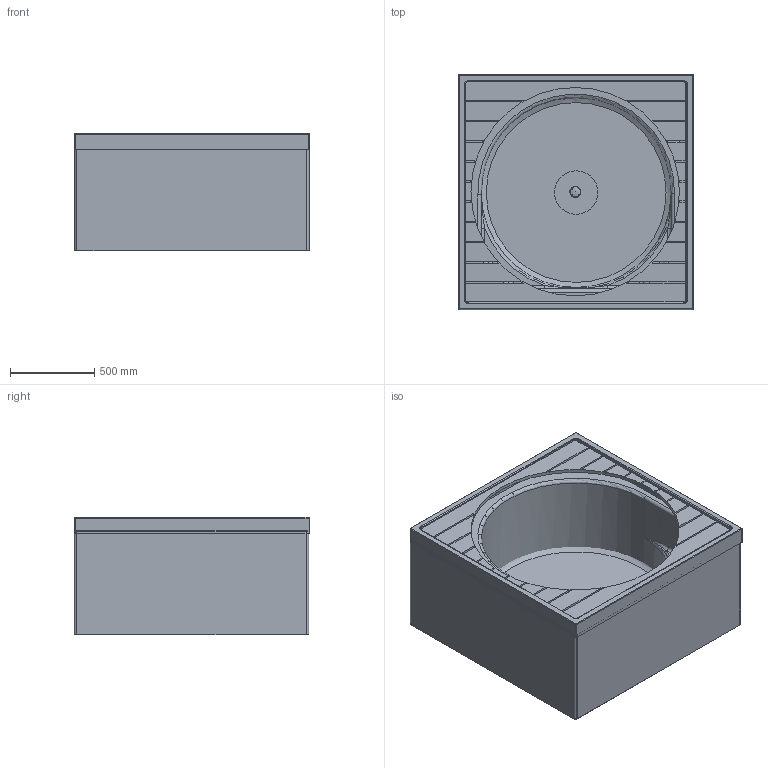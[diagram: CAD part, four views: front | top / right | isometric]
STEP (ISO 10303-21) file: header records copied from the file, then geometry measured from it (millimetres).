
FILE_DESCRIPTION((''),'2;1');
FILE_NAME('C:\Dokumente und Einstellungen\Andreas\Desktop\DURAVIT WINDOWS\ÄnderungenNeuheiten 4\Änderung Blue Moon\3D_ÄNDERUNGEN_BLUE MOON\stp\700143mHEuV.stp','2009-06-30T10:35:05',('Andreas'),(''),'Autodesk Inventor 2009','Autodesk Inventor 2009','');
FILE_SCHEMA(('AUTOMOTIVE_DESIGN { 1 0 10303 214 1 1 1 1 }'));
Length unit declared in the file: millimetre
Products named in the file (6): 700143mHEuV; 700143; Kelch; Stopfen; 790851; 8750
Assembly tree (7 placements, depth 2):
  700143mHEuV
    700143
    Kelch  x2
    Stopfen  x2
    790851
    8750
Bounding box: 1400 x 1402.63 x 700 mm (x, y, z)
Volume: 106909210.6 mm3; surface area: 23264292.5 mm2
Topology: 8 solids, 8 shells, 351 faces, 953 edges, 584 vertices
Faces by surface type: plane 166, cylinder 121, torus 29, bspline 23, cone 8, sphere 4
Full cylindrical faces by diameter (mm): 42 x2, 44 x2, 52 x4, 60 x2, 258.158 x1, 1070 x1, 1130 x1, 1150 x1, 1240 x1
Entity records: 12931 total; most frequent: CARTESIAN_POINT 4778, DIRECTION 1673, ORIENTED_EDGE 1672, EDGE_CURVE 836, AXIS2_PLACEMENT_3D 571, VECTOR 531, LINE 531, VERTEX_POINT 527
